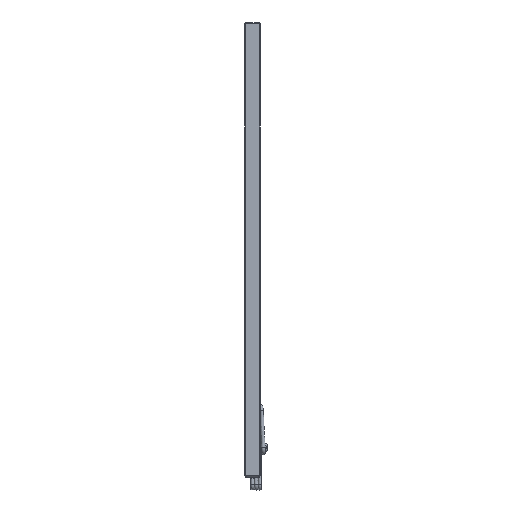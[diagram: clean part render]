
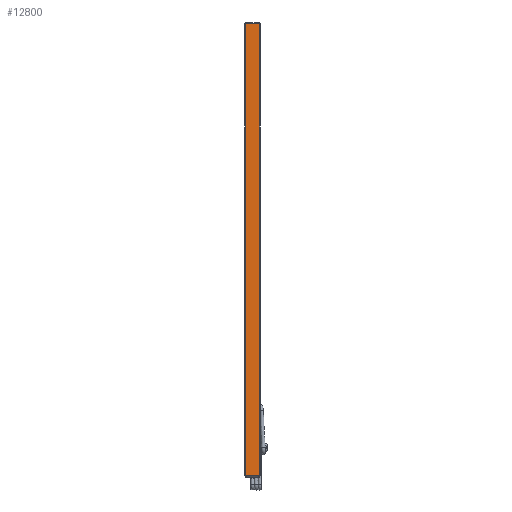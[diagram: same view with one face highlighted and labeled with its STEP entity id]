
A CAD part, front view. The second image highlights one B-rep face of the part: STEP entity #12800.
In plain terms, the highlighted planar face has unit normal (0, -1, 0).
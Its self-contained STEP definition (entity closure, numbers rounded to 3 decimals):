
#1636=FACE_OUTER_BOUND('',#2368,.T.);
#2368=EDGE_LOOP('',(#9010,#9011,#9012,#9013));
#3245=LINE('',#18419,#4386);
#3247=LINE('',#18425,#4388);
#3259=LINE('',#18475,#4400);
#3260=LINE('',#18476,#4401);
#4386=VECTOR('',#15150,10.);
#4388=VECTOR('',#15156,10.);
#4400=VECTOR('',#15196,10.);
#4401=VECTOR('',#15197,10.);
#5506=VERTEX_POINT('',#18416);
#5507=VERTEX_POINT('',#18418);
#5509=VERTEX_POINT('',#18424);
#5533=VERTEX_POINT('',#18474);
#6846=EDGE_CURVE('',#5506,#5507,#3245,.T.);
#6849=EDGE_CURVE('',#5509,#5507,#3247,.T.);
#6874=EDGE_CURVE('',#5506,#5533,#3259,.T.);
#6875=EDGE_CURVE('',#5509,#5533,#3260,.T.);
#9010=ORIENTED_EDGE('',*,*,#6846,.F.);
#9011=ORIENTED_EDGE('',*,*,#6874,.T.);
#9012=ORIENTED_EDGE('',*,*,#6875,.F.);
#9013=ORIENTED_EDGE('',*,*,#6849,.T.);
#12413=PLANE('',#13807);
#12800=ADVANCED_FACE('',(#1636),#12413,.T.);
#13807=AXIS2_PLACEMENT_3D('',#18473,#15194,#15195);
#15150=DIRECTION('',(0.,0.,-1.));
#15156=DIRECTION('',(1.,0.,0.));
#15194=DIRECTION('center_axis',(0.,-1.,0.));
#15195=DIRECTION('ref_axis',(0.,0.,-1.));
#15196=DIRECTION('',(-1.,0.,0.));
#15197=DIRECTION('',(0.,0.,1.));
#18416=CARTESIAN_POINT('',(18.421,0.,1219.2));
#18418=CARTESIAN_POINT('',(18.421,0.,0.));
#18419=CARTESIAN_POINT('',(18.421,0.,0.));
#18424=CARTESIAN_POINT('',(-18.421,0.,0.));
#18425=CARTESIAN_POINT('',(-18.735,0.,0.));
#18473=CARTESIAN_POINT('Origin',(18.735,0.,0.));
#18474=CARTESIAN_POINT('',(-18.421,0.,1219.2));
#18475=CARTESIAN_POINT('',(-18.735,0.,1219.2));
#18476=CARTESIAN_POINT('',(-18.421,0.,0.));
